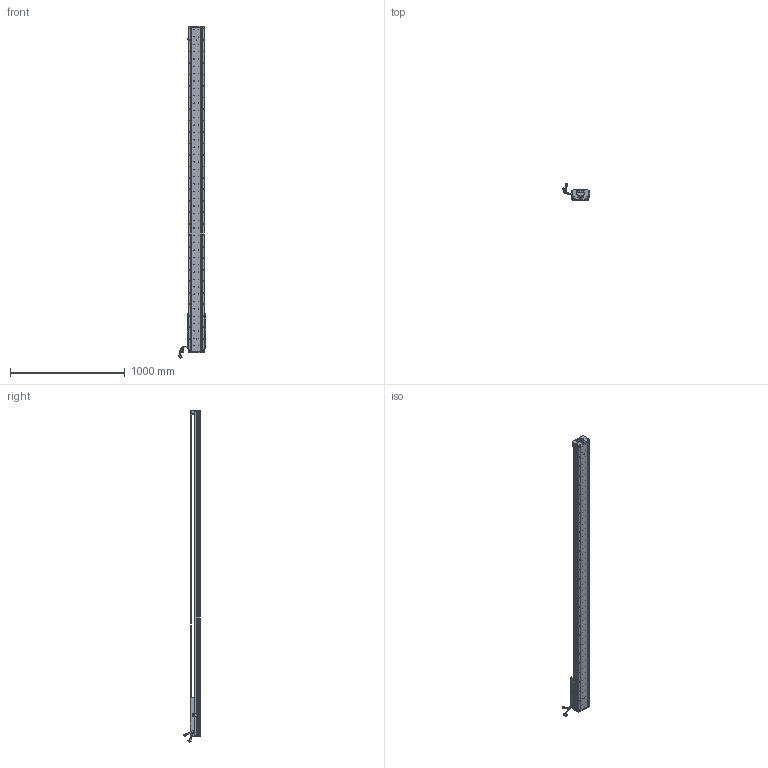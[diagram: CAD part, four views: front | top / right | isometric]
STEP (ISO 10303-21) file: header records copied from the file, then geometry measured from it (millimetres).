
FILE_DESCRIPTION (( 'STEP AP203' ), '1' );
FILE_NAME ('Z4-RY140D-1-L500-B-K.SLDASM_2450.step', '2021-05-17T08:19:54', ( '盈信电脑' ), ( '东莞市道滘镇水果街19号' ), 'SwSTEP 2.0', 'SolidWorks 2016', '' );
FILE_SCHEMA (( 'CONFIG_CONTROL_DESIGN' ));
Length unit declared in the file: millimetre
Products named in the file (36): HARNESS; SEAL-Part-1; 140-Z-臏賑輸盄裔(21遴); Z-RY140感应器672光电感应片; HARNESS-Part-1; 詩湍奻揤裔; HARNESS-Part-2; Z-140詩湍傷裔啣; SCREW-M1.6-1; 榋妏寠巭燃_暯_M2_2; LABEL; PSLH080_PSLF2; Z4-RY140圉猾敕臏賑輸(21遴); SCREW-M1.6; 140蚥薯蝶輸; Z4-RY140-L500詩湍100mm遵_2450; SCALE; 080黍杅芛假蚾釱21遴; 140雄赽晤鎢ん堤盄; SHIELDPLATE; SCREW-M1.6-3; HOLDER0; PBU_SHEET; SCREW-M1.6-2; 詩湍狟揤裔; SCALE-Part-2; SCREW-M1.7; LABEL-Part-1; 覜茼ん672; Z4-RY140-L500直线电机模组底座_2450; Z4-RY140D-1-L500-B-K.SLDASM_2450; COVER; SCALE-Part-1; SEAL; COVER-Part-1; SCREW-M1.7-1
Assembly tree (41 placements, depth 4):
  Z4-RY140D-1-L500-B-K.SLDASM_2450
    Z4-RY140-L500直线电机模组底座_2450
    Z-RY140感应器672光电感应片
    Z4-RY140圉猾敕臏賑輸(21遴)
    覜茼ん672  x3
    Z4-RY140-L500詩湍100mm遵_2450
    PSLH080_PSLF2
      SCALE
        SCALE-Part-1
        SCALE-Part-2
      HARNESS
        HARNESS-Part-1
        HARNESS-Part-2
      LABEL
        LABEL-Part-1
      COVER
        COVER-Part-1
      SEAL
        SEAL-Part-1
      榋妏寠巭燃_暯_M2_2
      SHIELDPLATE
      SCREW-M1.7
      SCREW-M1.7-1
      PBU_SHEET
      SCREW-M1.6
      SCREW-M1.6-1
      SCREW-M1.6-2
      SCREW-M1.6-3
      HOLDER0
    080黍杅芛假蚾釱21遴
    140-Z-臏賑輸盄裔(21遴)
    Z-140詩湍傷裔啣  x2
    詩湍狟揤裔  x2
    詩湍奻揤裔  x2
    140蚥薯蝶輸  x2
    140雄赽晤鎢ん堤盄
Bounding box: 239.79 x 143.88 x 2890.87 mm (x, y, z)
Volume: 9377331.4 mm3; surface area: 2425890.6 mm2
Topology: 36 solids, 36 shells, 4338 faces, 11850 edges, 7511 vertices
Faces by surface type: cylinder 2386, plane 1412, cone 418, torus 69, bspline 53
Entity records: 139078 total; most frequent: CARTESIAN_POINT 39819, ORIENTED_EDGE 20588, DIRECTION 18898, EDGE_CURVE 10294, AXIS2_PLACEMENT_3D 7038, VERTEX_POINT 6679, LINE 4822, VECTOR 4822
